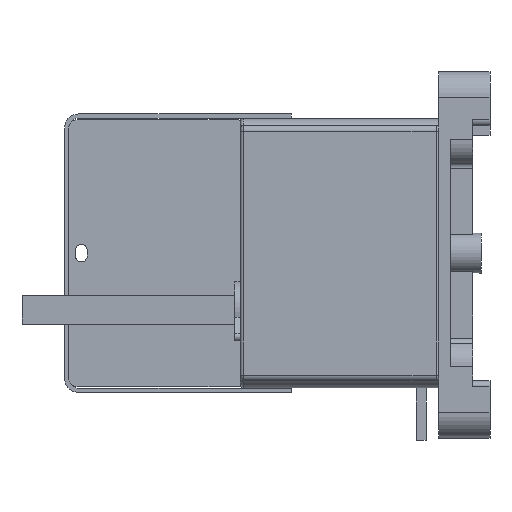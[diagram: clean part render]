
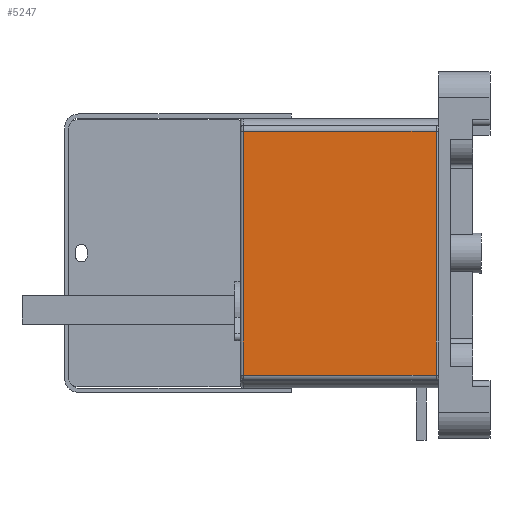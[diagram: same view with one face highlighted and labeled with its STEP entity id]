
A CAD part, left-side view. The second image highlights one B-rep face of the part: STEP entity #5247.
In plain terms, the highlighted planar face has unit normal (-1, 0, 0).
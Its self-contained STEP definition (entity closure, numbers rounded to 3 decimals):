
#2305=LINE('',#29036,#4146);
#2453=LINE('',#29715,#4294);
#2458=LINE('',#29751,#4299);
#2459=LINE('',#29753,#4300);
#4146=VECTOR('',#23698,1.);
#4294=VECTOR('',#24304,1.);
#4299=VECTOR('',#24319,1.);
#4300=VECTOR('',#24322,1.);
#5247=ADVANCED_FACE('',(#6668),#5858,.F.);
#5858=PLANE('',#19444);
#6668=FACE_OUTER_BOUND('',#7781,.T.);
#7781=EDGE_LOOP('',(#12429,#12430,#12431,#12432));
#12429=ORIENTED_EDGE('',*,*,#17120,.F.);
#12430=ORIENTED_EDGE('',*,*,#17111,.T.);
#12431=ORIENTED_EDGE('',*,*,#17121,.T.);
#12432=ORIENTED_EDGE('',*,*,#16831,.T.);
#14446=VERTEX_POINT('',#29029);
#14448=VERTEX_POINT('',#29035);
#14636=VERTEX_POINT('',#29693);
#14638=VERTEX_POINT('',#29714);
#16831=EDGE_CURVE('',#14446,#14448,#2305,.T.);
#17111=EDGE_CURVE('',#14636,#14638,#2453,.T.);
#17120=EDGE_CURVE('',#14636,#14448,#2458,.T.);
#17121=EDGE_CURVE('',#14638,#14446,#2459,.T.);
#19444=AXIS2_PLACEMENT_3D('',#29754,#24323,#24324);
#23698=DIRECTION('',(0.,0.,1.));
#24304=DIRECTION('',(0.,0.,-1.));
#24319=DIRECTION('',(0.,-1.,0.));
#24322=DIRECTION('',(0.,-1.,0.));
#24323=DIRECTION('',(1.,0.,0.));
#24324=DIRECTION('',(0.,0.,-1.));
#29029=CARTESIAN_POINT('',(-41.,1.,-43.));
#29035=CARTESIAN_POINT('',(-41.,1.,43.));
#29036=CARTESIAN_POINT('',(-41.,1.,-43.));
#29693=CARTESIAN_POINT('',(-41.,69.,43.));
#29714=CARTESIAN_POINT('',(-41.,69.,-43.));
#29715=CARTESIAN_POINT('',(-41.,69.,-43.));
#29751=CARTESIAN_POINT('',(-41.,35.,43.));
#29753=CARTESIAN_POINT('',(-41.,35.,-43.));
#29754=CARTESIAN_POINT('',(-41.,35.,-43.));
